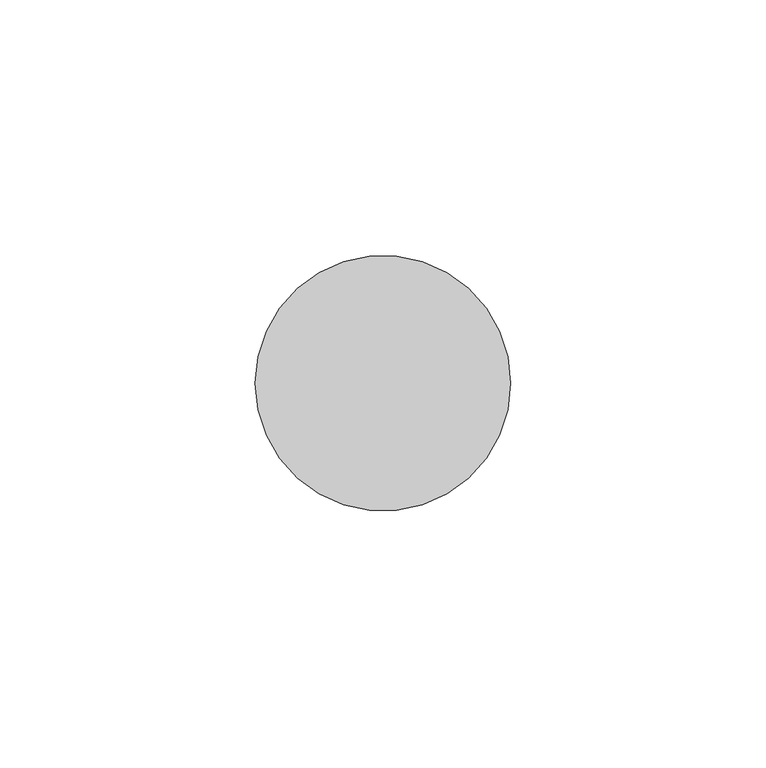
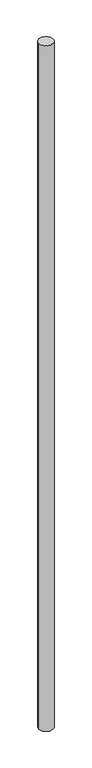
"""IFC4 building model written with IfcOpenShell, lengths in millimetres: member geometry, 圓形豎框 : 25mm 半徑."""

import ifcopenshell
import ifcopenshell.guid

model = None  # the IFC model being written
_history = None  # IfcOwnerHistory: only IFC2X3 demands one
_inside = {}  # id of a spatial element -> (the spatial element, [elements in it])
_under = {}  # id of a project, library or spatial element -> (it, [spatial elements below it])
_declared = {}  # id of a project -> (the project, [libraries it declares])
_typed = {}  # id of a type object -> (the type object, [elements of that type])
_made_of = {}  # id of a material, layer set ... -> (it, [elements and type objects made of it])


def new_model(schema):
    """Start an empty IFC model of exactly this schema.

    Asked for "IFC4X3", IfcOpenShell would pick the latest addendum, in which some entities
    have other attributes; the version numbers below select the first issue.
    IFC2X3 requires an IfcOwnerHistory on every rooted entity: one is made here for all.
    """
    global model, _history
    if schema == "IFC4X3":
        model = ifcopenshell.file(schema_version=(4, 3, 0, 0))
    else:
        model = ifcopenshell.file(schema=schema)
    _inside.clear()
    _under.clear()
    _declared.clear()
    _typed.clear()
    _made_of.clear()
    _history = None
    if model.schema == "IFC2X3":
        org = make("IfcOrganization", Name="unknown")
        user = make(
            "IfcPersonAndOrganization",
            ThePerson=make("IfcPerson", FamilyName="unknown"),
            TheOrganization=org,
        )
        app = make(
            "IfcApplication",
            ApplicationDeveloper=org,
            Version="unknown",
            ApplicationFullName="unknown",
            ApplicationIdentifier="unknown",
        )
        _history = make(
            "IfcOwnerHistory",
            OwningUser=user,
            OwningApplication=app,
            ChangeAction="ADDED",
            CreationDate=0,
        )
    return model


def make(cls, **values):
    """One entity of the class cls with the attributes given. An attribute that is None is left unset."""
    return model.create_entity(
        cls, **{name: value for name, value in values.items() if value is not None}
    )


def rooted(cls, **values):
    """An entity with a GlobalId (a new one), such as an element, a storey or a relation."""
    return make(cls, GlobalId=ifcopenshell.guid.new(), OwnerHistory=_history, **values)


def si_unit(unit_type, name, prefix=None):
    """IfcSIUnit, for example si_unit("LENGTHUNIT", "METRE", prefix="MILLI")."""
    return make("IfcSIUnit", UnitType=unit_type, Prefix=prefix, Name=name)


def assignment(units):
    """IfcUnitAssignment: the units of a project."""
    return None if units is None else make("IfcUnitAssignment", Units=units)


def point(xyz):
    """IfcCartesianPoint."""
    return None if xyz is None else make("IfcCartesianPoint", Coordinates=xyz)


def direction(xyz):
    """IfcDirection."""
    return None if xyz is None else make("IfcDirection", DirectionRatios=xyz)


def frame(location, z_axis=None, x_axis=None):
    """IfcAxis2Placement3D, a coordinate frame: its origin and axes. An axis left out is left unset."""
    return make(
        "IfcAxis2Placement3D",
        Location=point(location),
        Axis=direction(z_axis),
        RefDirection=direction(x_axis),
    )


def frame_2d(location, x_axis=None):
    """IfcAxis2Placement2D, a coordinate frame in the plane: its origin and x axis."""
    return make(
        "IfcAxis2Placement2D", Location=point(location), RefDirection=direction(x_axis)
    )


def origin():
    """The frame at (0, 0, 0) with its axes left unset."""
    return frame((0.0, 0.0, 0.0))


def origin_2d():
    """The frame at (0, 0) in the plane with its x axis left unset."""
    return frame_2d((0.0, 0.0))


def place(relative_to, where):
    """IfcLocalPlacement: puts the frame where relative to a parent placement (None: the world)."""
    return make(
        "IfcLocalPlacement", PlacementRelTo=relative_to, RelativePlacement=where
    )


def context(
    kind, dimensions, precision=None, world=None, true_north=None, identifier=None
):
    """IfcGeometricRepresentationContext, for example the 3D "Model" context."""
    return make(
        "IfcGeometricRepresentationContext",
        ContextIdentifier=identifier,
        ContextType=kind,
        CoordinateSpaceDimension=dimensions,
        Precision=precision,
        WorldCoordinateSystem=world,
        TrueNorth=true_north,
    )


def project(units=None, contexts=None):
    """IfcProject with its units and contexts."""
    return rooted(
        "IfcProject",
        Name="project",
        RepresentationContexts=contexts,
        UnitsInContext=assignment(units),
    )


def spatial(cls, under=None, at=None, **own):
    """A site, building, storey or space (cls), placed at a placement, below another one or the project."""
    s = rooted(cls, ObjectPlacement=at, **own)
    if under is not None:
        _under.setdefault(under.id(), (under, []))[1].append(s)
    return s


def circle_curve(where, radius):
    """IfcCircle in the frame where."""
    return make("IfcCircle", Position=where, Radius=radius)


def trimmed(basis, trim1, trim2, sense, master):
    """IfcTrimmedCurve: the piece of a basis curve between two trims."""
    return make(
        "IfcTrimmedCurve",
        BasisCurve=basis,
        Trim1=trim1,
        Trim2=trim2,
        SenseAgreement=sense,
        MasterRepresentation=master,
    )


def segment(curve, same_sense, transition):
    """IfcCompositeCurveSegment."""
    return make(
        "IfcCompositeCurveSegment",
        Transition=transition,
        SameSense=same_sense,
        ParentCurve=curve,
    )


def composite_curve(segments, self_intersect=None):
    """IfcCompositeCurve: segments joined end to end."""
    return make("IfcCompositeCurve", Segments=segments, SelfIntersect=self_intersect)


def outline(outer, holes=None, kind="AREA"):
    """IfcArbitraryClosedProfileDef: a profile drawn as a closed curve; with holes, ...WithVoids."""
    if holes is None:
        return make("IfcArbitraryClosedProfileDef", ProfileType=kind, OuterCurve=outer)
    return make(
        "IfcArbitraryProfileDefWithVoids",
        ProfileType=kind,
        OuterCurve=outer,
        InnerCurves=holes,
    )


def extrude(swept, where, along, depth):
    """IfcExtrudedAreaSolid: the profile swept, set in the frame where, extruded along a direction by depth."""
    return make(
        "IfcExtrudedAreaSolid",
        SweptArea=swept,
        Position=where,
        ExtrudedDirection=direction(along),
        Depth=depth,
    )


def shape(context_of_items, identifier, shape_type, items):
    """IfcShapeRepresentation: the items that make up one representation, for example the "Body"."""
    return make(
        "IfcShapeRepresentation",
        ContextOfItems=context_of_items,
        RepresentationIdentifier=identifier,
        RepresentationType=shape_type,
        Items=items,
    )


def source(mapping_origin, context_of_items, identifier, shape_type, items):
    """IfcRepresentationMap: a shape defined once, which mapped items show again and again."""
    return make(
        "IfcRepresentationMap",
        MappingOrigin=mapping_origin,
        MappedRepresentation=shape(context_of_items, identifier, shape_type, items),
    )


def transform(
    local_origin,
    x_axis=None,
    y_axis=None,
    z_axis=None,
    scale=None,
    scale2=None,
    scale3=None,
    uniform=True,
):
    """IfcCartesianTransformationOperator3D, or its non-uniform kind. x_axis, y_axis, z_axis: its Axis1, 2, 3."""
    if uniform:
        return make(
            "IfcCartesianTransformationOperator3D",
            Axis1=direction(x_axis),
            Axis2=direction(y_axis),
            LocalOrigin=point(local_origin),
            Scale=scale,
            Axis3=direction(z_axis),
        )
    return make(
        "IfcCartesianTransformationOperator3DnonUniform",
        Axis1=direction(x_axis),
        Axis2=direction(y_axis),
        LocalOrigin=point(local_origin),
        Scale=scale,
        Axis3=direction(z_axis),
        Scale2=scale2,
        Scale3=scale3,
    )


def mapped(mapping_source, mapping_target):
    """IfcMappedItem: shows the shape of a source again, moved by a transform."""
    return make(
        "IfcMappedItem", MappingSource=mapping_source, MappingTarget=mapping_target
    )


def made_of(thing, what):
    """Note that an element or type object is made of a material, layer set ...; save() writes the relation."""
    if what is not None:
        _made_of.setdefault(what.id(), (what, []))[1].append(thing)
    return thing


def element(
    cls,
    number,
    at=None,
    inside=None,
    cuts=None,
    type_object=None,
    material=None,
    context=None,
    identifier="Body",
    shape_type=None,
    held_by="IfcProductDefinitionShape",
    body=None,
    shapes=None,
    **own,
):
    """One element of the class cls, such as IfcWall. Its Tag is "e" and its number.

    at: its placement. inside: the storey or other place that contains it. cuts: it is an
    opening in that element (IfcRelVoidsElement). A single representation is given by context,
    identifier, shape_type and body (its items); several are given by shapes. held_by: the class
    of the entity that holds the representations. save() writes the other relations.
    """
    e = rooted(cls, Tag="e%d" % number, ObjectPlacement=at, **own)
    if body is not None:
        shapes = [shape(context, identifier, shape_type, body)]
    if shapes is not None:
        e.Representation = make(held_by, Representations=shapes)
    if inside is not None:
        _inside.setdefault(inside.id(), (inside, []))[1].append(e)
    if cuts is not None:
        rooted(
            "IfcRelVoidsElement", RelatingBuildingElement=cuts, RelatedOpeningElement=e
        )
    if type_object is not None:
        _typed.setdefault(type_object.id(), (type_object, []))[1].append(e)
    return made_of(e, material)


def aggregate(whole, parts):
    """IfcRelAggregates: a whole, such as a stair, and the parts it consists of."""
    return rooted("IfcRelAggregates", RelatingObject=whole, RelatedObjects=parts)


def save(model, path):
    """Write the relations noted so far, then the file.

    IfcRelAggregates (storeys below a building ...), IfcRelContainedInSpatialStructure (elements
    in a storey), IfcRelDefinesByType, IfcRelAssociatesMaterial and IfcRelDeclares: one each for
    every whole, place, type object, material and project.
    """
    for whole, parts in _under.values():
        aggregate(whole, parts)
    for where, things in _inside.values():
        rooted(
            "IfcRelContainedInSpatialStructure",
            RelatedElements=things,
            RelatingStructure=where,
        )
    for kind, things in _typed.values():
        rooted("IfcRelDefinesByType", RelatedObjects=things, RelatingType=kind)
    for what, things in _made_of.values():
        rooted("IfcRelAssociatesMaterial", RelatedObjects=things, RelatingMaterial=what)
    for by, libraries in _declared.values():
        rooted("IfcRelDeclares", RelatingContext=by, RelatedDefinitions=libraries)
    model.write(path)


def member_0477ad9e(model_context):
    return source(origin(), model_context, "Body", "SweptSolid", [
        extrude(outline(composite_curve([segment(trimmed(circle_curve(origin_2d(), 25.0), [point((25.0, 0.0))], [point((-25.0, 0.0))], False, "CARTESIAN"), True, "CONTINUOUS"), segment(trimmed(circle_curve(origin_2d(), 25.0), [point((-25.0, 0.0))], [point((25.0, 0.0))], False, "CARTESIAN"), True, "CONTINUOUS")], self_intersect=False)), frame((0.0, 0.0, -2584.1882523), z_axis=(0.0, 0.0, 1.0), x_axis=(1.0, 0.0, 0.0)), (0.0, 0.0, 1.0), 2584.1882523),
    ])


if __name__ == "__main__":
    model = new_model("IFC4")
    model_context = context("Model", 3, world=origin())
    ifc_project = project(units=[si_unit("LENGTHUNIT", "METRE", prefix="MILLI")], contexts=[model_context])
    site = spatial("IfcSite", under=ifc_project)
    building = spatial("IfcBuilding", under=site)
    placement = place(None, origin())
    member_shape = member_0477ad9e(model_context)
    element("IfcMember", 1, ObjectType="圓形豎框 : 25mm 半徑", at=placement, inside=building, context=model_context, shape_type="MappedRepresentation", body=[
        mapped(member_shape, transform((0.0, 0.0, 0.0), x_axis=(1.0, 0.0, 0.0), y_axis=(0.0, 1.0, 0.0), z_axis=(0.0, 0.0, 1.0))),
    ])
    save(model, "model.ifc")
